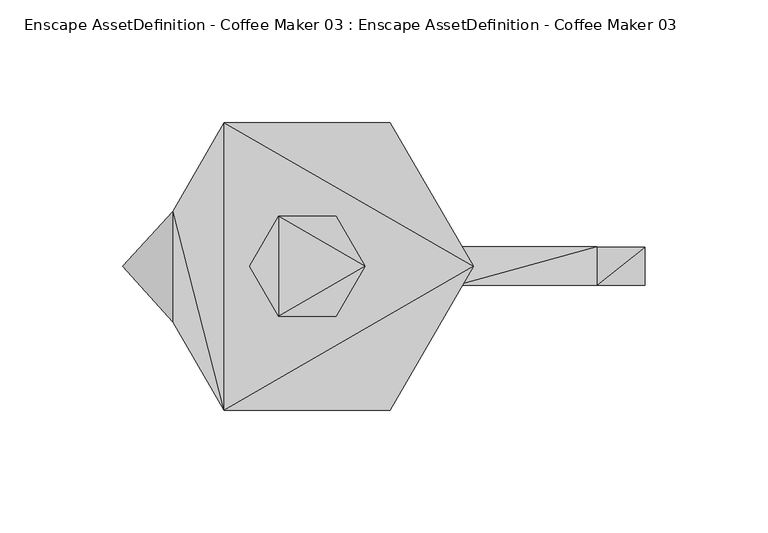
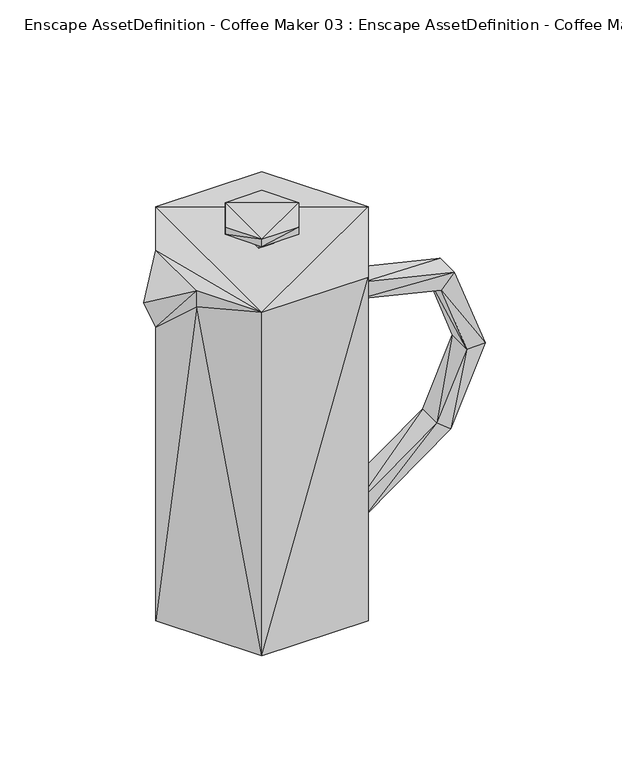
"""IFC4 building model written with IfcOpenShell, lengths in millimetres: geographic element geometry, Enscape AssetDefinition - Coffee Maker 03 : Enscape AssetDefinition - Coffee Maker 03."""

from ifc_helpers import new_model, si_unit, origin, place, context, project, spatial, faceted_brep, source, transform, mapped, element, save


def enscape_assetdefinition_coffee_maker_03_enscape_4d109c25(model_context):
    return source(origin(), model_context, "Body", "Brep", [
        faceted_brep([(23.514865, 0.0, 245.0372875), (11.7579438, -20.3653257, 245.0372875), (-11.7579438, -20.3653257, 245.0372875), (11.7579438, -20.3653257, 249.9673218), (23.514865, 0.0, 249.9673218), (-11.7579438, -20.3653257, 249.9673218), (-11.7579438, 20.3643031, 245.0372875), (-23.514865, 0.0, 245.0372875), (11.7579438, 20.3643031, 249.9673218), (11.7579438, 20.3643031, 245.0372875), (-11.7579438, 20.3643031, 249.9673218), (-23.514865, 0.0, 249.9673218)], [[[0, 1, 2]], [[3, 1, 4]], [[3, 2, 1]], [[4, 1, 0]], [[5, 2, 3]], [[6, 2, 7]], [[0, 2, 6]], [[5, 7, 2]], [[4, 0, 8]], [[0, 6, 9]], [[8, 0, 9]], [[10, 6, 11]], [[10, 9, 6]], [[11, 6, 7]], [[11, 7, 5]], [[5, 10, 11]], [[5, 3, 4]], [[5, 4, 10]], [[10, 4, 8]], [[8, 9, 10]]]),
        faceted_brep([(67.7921921, 0.0, 0.0), (33.8955857, -58.7100834, 0.0), (-33.8955857, -58.7100834, 0.0), (33.8955857, -58.7100834, 231.7571491), (67.7921921, 0.0, 231.7571491), (33.8955857, 58.7090626, 231.7571491), (-33.8955857, 58.7090626, 0.0), (33.8955857, 58.7090626, 0.0), (-33.8955857, -58.7100834, 231.7571491), (-33.8955857, 58.7090626, 231.7571491), (-54.6529479, -22.7573421, 220.9456116), (-54.6927638, -22.6889402, 231.7571491), (-54.8101664, 22.4847551, 231.7571491), (-54.6509027, 22.7604043, 221.0905701), (-67.7921921, 0.0, 0.0), (-67.7921921, 0.0, 197.9136318), (-75.4358247, 0.0, 217.1416432)], [[[0, 1, 2]], [[3, 1, 4]], [[3, 2, 1]], [[4, 1, 0]], [[4, 0, 5]], [[0, 6, 7]], [[0, 2, 6]], [[5, 0, 7]], [[8, 3, 4]], [[9, 4, 5]], [[8, 4, 9]], [[8, 2, 3]], [[10, 8, 11]], [[10, 2, 8]], [[8, 9, 12]], [[8, 12, 11]], [[5, 7, 9]], [[6, 13, 9]], [[9, 13, 12]], [[9, 7, 6]], [[6, 2, 14]], [[14, 13, 6]], [[12, 13, 15]], [[15, 13, 14]], [[11, 12, 16]], [[12, 15, 16]], [[15, 10, 11]], [[15, 11, 16]], [[10, 15, 14]], [[10, 14, 2]]]),
        faceted_brep([(4.7687204, 4.7687204, 227.9103249), (-4.7687204, -4.7697416, 227.9103249), (-4.7687204, 4.7687204, 227.9103249), (4.7687204, -4.7697416, 246.2185025), (4.7687204, -4.7697416, 227.9103249), (-4.7687204, -4.7697416, 246.2185025), (-4.7687204, 4.7687204, 246.2185025), (4.7687204, 4.7687204, 246.2185025)], [[[0, 1, 2]], [[3, 1, 4]], [[5, 2, 1]], [[1, 0, 4]], [[1, 3, 5]], [[6, 0, 2]], [[2, 5, 6]], [[7, 4, 0]], [[0, 6, 7]], [[4, 7, 3]], [[7, 5, 3]], [[5, 7, 6]]]),
        faceted_brep([(118.2338446, 7.9366369, 174.492687), (61.1531436, -7.7600181, 188.2332563), (118.2338446, -7.7600181, 174.492687), (57.9270348, 7.9366369, 177.690208), (57.9270348, -7.7600181, 177.690208), (61.1531436, 7.9366369, 188.2332563), (109.9756137, 7.9366369, 165.4891968), (126.0520518, 7.9366369, 120.1051921), (137.9570067, 7.9366369, 120.0633273), (109.9756137, -7.7600181, 165.4891968), (137.9570067, -7.7600181, 120.0633273), (126.0520518, -7.7600181, 120.1051921), (107.0465967, -7.7600181, 77.0550072), (107.0465967, 7.9366369, 77.0550072), (116.0551906, -7.7600181, 69.9728802), (116.0551906, 7.9366369, 69.9728802), (54.6560064, -7.7600181, 38.9501639), (54.6560064, 7.9366369, 38.9501639), (61.1419193, -7.7600181, 30.033445), (61.1419193, 7.9366369, 30.033445)], [[[0, 1, 2]], [[1, 3, 4]], [[1, 0, 5]], [[4, 2, 1]], [[3, 1, 5]], [[6, 5, 0]], [[7, 0, 8]], [[2, 8, 0]], [[0, 7, 6]], [[5, 6, 3]], [[9, 3, 6]], [[3, 9, 4]], [[2, 4, 9]], [[10, 9, 11]], [[6, 11, 9]], [[9, 10, 2]], [[11, 6, 7]], [[12, 7, 13]], [[8, 13, 7]], [[7, 12, 11]], [[14, 11, 12]], [[11, 14, 10]], [[8, 2, 10]], [[15, 10, 14]], [[10, 15, 8]], [[13, 8, 15]], [[16, 13, 17]], [[15, 17, 13]], [[13, 16, 12]], [[18, 12, 16]], [[12, 18, 14]], [[19, 14, 18]], [[14, 19, 15]], [[17, 15, 19]], [[16, 17, 18]], [[18, 17, 19]]]),
    ])


if __name__ == "__main__":
    model = new_model("IFC4")
    model_context = context("Model", 3, world=origin())
    ifc_project = project(units=[si_unit("LENGTHUNIT", "METRE", prefix="MILLI")], contexts=[model_context])
    site = spatial("IfcSite", under=ifc_project)
    building = spatial("IfcBuilding", under=site)
    placement = place(None, origin())
    enscape_assetdefinition_coffee_maker_03_enscape_shape = enscape_assetdefinition_coffee_maker_03_enscape_4d109c25(model_context)
    element("IfcGeographicElement", 1, ObjectType="Enscape AssetDefinition - Coffee Maker 03 : Enscape AssetDefinition - Coffee Maker 03", at=placement, inside=building, context=model_context, shape_type="MappedRepresentation", body=[
        mapped(enscape_assetdefinition_coffee_maker_03_enscape_shape, transform((0.0, 0.0, 0.0), x_axis=(1.0, 0.0, 0.0), y_axis=(0.0, 1.0, 0.0), z_axis=(0.0, 0.0, 1.0))),
    ])
    save(model, "model.ifc")
